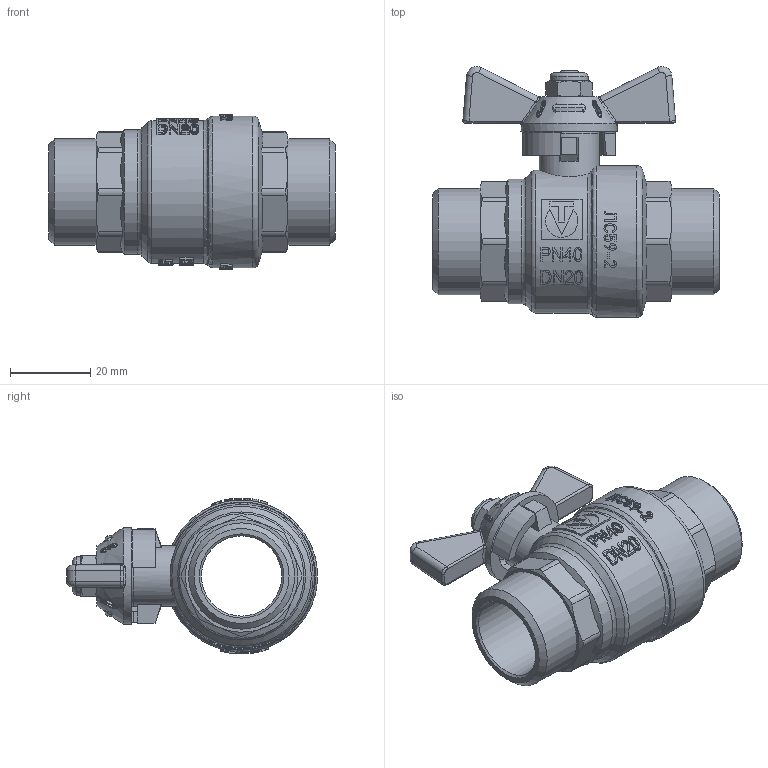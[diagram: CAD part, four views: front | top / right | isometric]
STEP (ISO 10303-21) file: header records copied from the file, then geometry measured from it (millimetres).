
FILE_DESCRIPTION(('STEP AP203'), '1');
FILE_NAME('VT.219S.N.05', '', ('UNSPECIFIED'), ('UNSPECIFIED'), 'C3D Converter', 'C3D Toolkit', '');
FILE_SCHEMA(('CONFIG_CONTROL_DESIGN'));
Length unit declared in the file: millimetre
Products named in the file (1): ВР.491811.010.000 СБ
Bounding box: 71.4 x 62.48 x 38.8 mm (x, y, z)
Volume: 40666.5 mm3; surface area: 16866.7 mm2
Topology: 1 solids, 1 shells, 1733 faces, 4927 edges, 3249 vertices
Faces by surface type: plane 1412, cylinder 111, extrusion 108, cone 57, bspline 28, torus 17
Full cylindrical faces by diameter (mm): 6 x1, 8 x1, 9.5 x1, 10.5 x1, 12 x1, 15 x1, 20 x1, 24 x1, 26.441 x2, 31 x1, 35.6 x1, 37.8 x1
Entity records: 64080 total; most frequent: CARTESIAN_POINT 26448, ORIENTED_EDGE 9752, DIRECTION 5886, EDGE_CURVE 4876, VERTEX_POINT 3241, AXIS2_PLACEMENT_3D 1980, VECTOR 1926, EDGE_LOOP 1827
